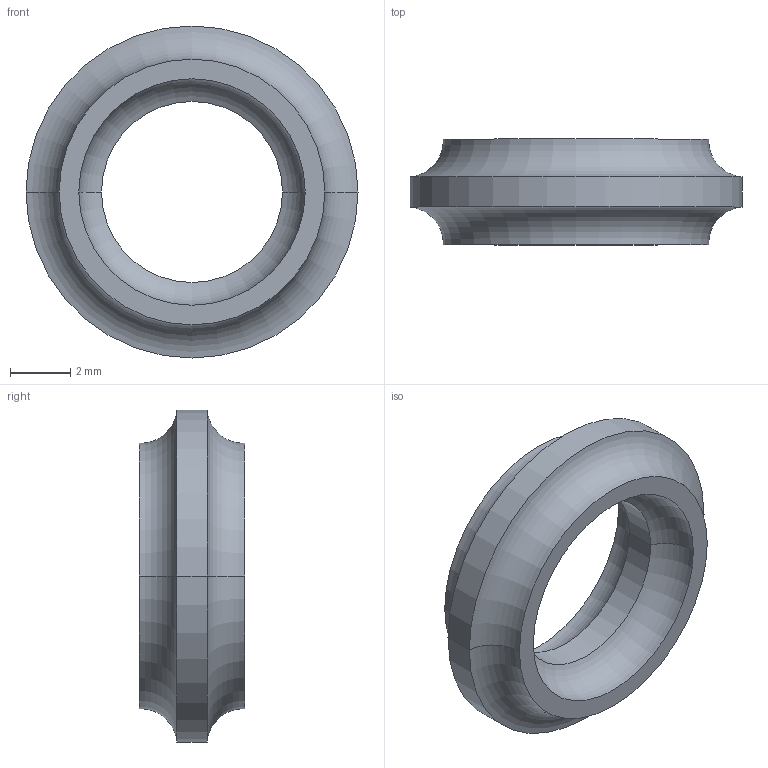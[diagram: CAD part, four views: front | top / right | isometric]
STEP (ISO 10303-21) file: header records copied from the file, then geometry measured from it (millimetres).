
FILE_DESCRIPTION((''),'2;1');
FILE_NAME('8930601014','2015-06-23T',('vol1hc'),(''),'PRO/ENGINEER BY PARAMETRIC TECHNOLOGY CORPORATION, 2012421','PRO/ENGINEER BY PARAMETRIC TECHNOLOGY CORPORATION, 2012421','');
FILE_SCHEMA(('CONFIG_CONTROL_DESIGN','SHAPE_APPEARANCE_LAYERS_GROUPS'));
Length unit declared in the file: millimetre
Products named in the file (1): 8930601014
Bounding box: 11 x 3.5 x 11 mm (x, y, z)
Volume: 136.1 mm3; surface area: 266.5 mm2
Topology: 1 solids, 1 shells, 14 faces, 28 edges, 16 vertices
Faces by surface type: torus 8, cylinder 4, plane 2
Entity records: 426 total; most frequent: DIRECTION 80, CARTESIAN_POINT 58, ORIENTED_EDGE 56, AXIS2_PLACEMENT_3D 38, EDGE_CURVE 28, CIRCLE 24, VERTEX_POINT 16, EDGE_LOOP 16
